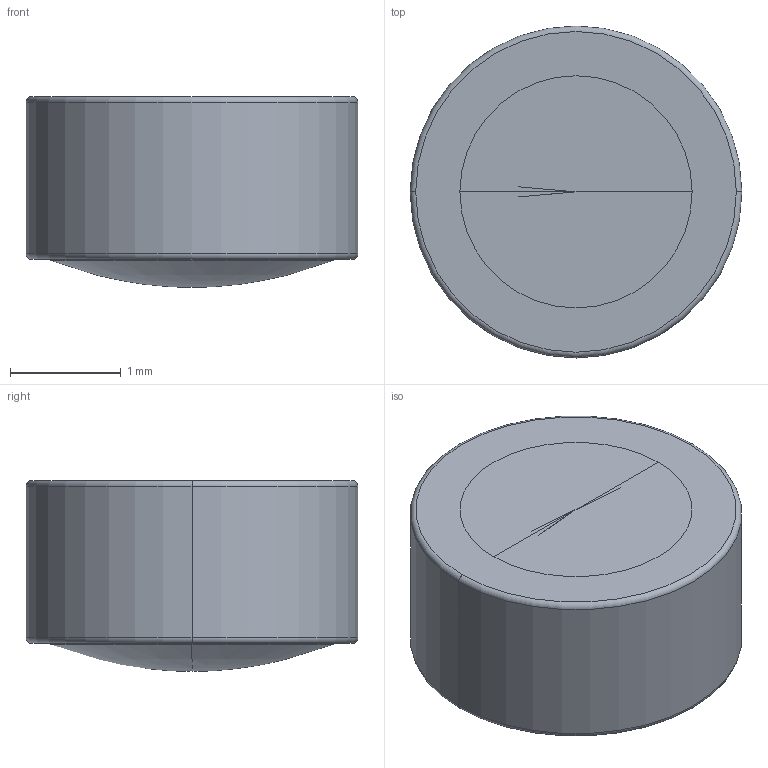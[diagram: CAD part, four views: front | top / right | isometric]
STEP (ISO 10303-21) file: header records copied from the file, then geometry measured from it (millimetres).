
FILE_DESCRIPTION((''),'2;1');
FILE_NAME('354130','2025-07-25T21:11:57',('admin'),('LIGHTPATH'),'CREO PARAMETRIC BY PTC INC, 2024063','CREO PARAMETRIC BY PTC INC, 2024063','');
FILE_SCHEMA(('CONFIG_CONTROL_DESIGN'));
Length unit declared in the file: millimetre
Products named in the file (1): 354130
Bounding box: 3 x 3 x 1.73 mm (x, y, z)
Volume: 11.1 mm3; surface area: 27.8 mm2
Topology: 1 solids, 1 shells, 14 faces, 30 edges, 16 vertices
Faces by surface type: torus 6, revolution 4, plane 2, cylinder 2
Entity records: 669 total; most frequent: CARTESIAN_POINT 333, DIRECTION 68, ORIENTED_EDGE 52, AXIS2_PLACEMENT_3D 30, EDGE_CURVE 26, CIRCLE 20, VERTEX_POINT 16, EDGE_LOOP 16
